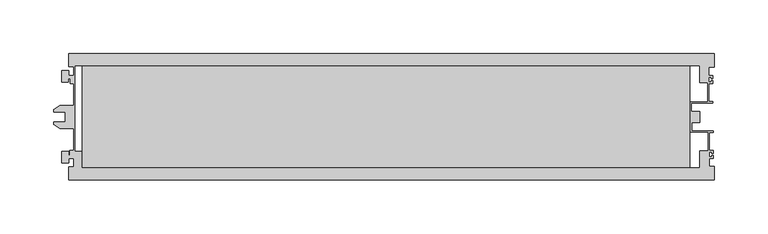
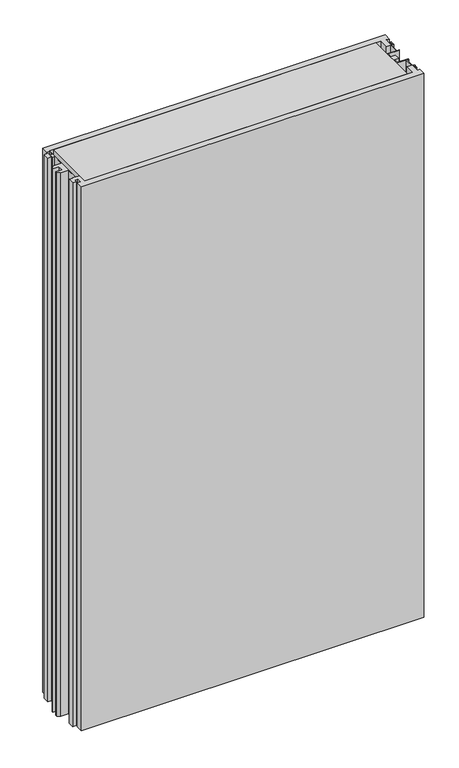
"""IFC4 building model written with IfcOpenShell, lengths in millimetres: plate geometry, Walls_External-Walls_Danpal_Danpatherm-K12 : Walls_External-Walls_Danpal_Danpatherm-K12."""

from ifc_helpers import new_model, si_unit, frame, origin, place, context, project, spatial, polyline, outline, extrude, source, transform, mapped, element, save


def plate_ff002d2a(model_context):
    return source(origin(), model_context, "Body", "SweptSolid", [
        extrude(outline(polyline([(274.6184743, 11.5), (-289.8606362, 11.5), (-289.8606362, 105.9), (274.6184743, 105.9), (274.6184743, 11.5)])), frame((0.0, 0.0, -29.0), z_axis=(0.0, 0.0, 1.0), x_axis=(1.0, 0.0, 0.0)), (0.0, 0.0, 1.0), 1007.2059038),
        extrude(outline(polyline([(-302.5, 0.0), (-302.5, 12.0), (-297.8073464, 12.0), (-297.8073464, 19.8235008), (-302.439876, 19.8235008), (-302.439876, 15.7697721), (-308.8872445, 15.7697721), (-308.8872445, 26.3618773), (-302.5, 26.3618773), (-302.5, 22.8208692), (-301.407343, 22.8208692), (-301.407343, 27.4235008), (-297.7, 27.4235008), (-297.7, 47.6749188), (-310.7714928, 47.6749188), (-316.1600052, 51.6018507), (-316.1600052, 53.8499188), (-305.3266718, 53.8499188), (-305.3266718, 63.1232521), (-316.1600052, 63.1232521), (-316.1600052, 65.3713202), (-310.7714928, 69.2982521), (-297.4, 69.2982521), (-297.4, 89.4749648), (-300.9999965, 89.4749648), (-300.9999965, 94.0775963), (-302.5127555, 94.0775963), (-302.5127555, 91.0381227), (-308.9, 91.0381227), (-308.9, 101.6302279), (-302.4526316, 101.6302279), (-302.4526316, 97.0749648), (-297.4, 97.0749648), (-297.4, 105.4), (-302.5, 105.4), (-302.5, 117.4), (297.5, 117.4), (297.5, 104.9), (292.4, 104.9), (292.4, 97.0749648), (295.9999965, 97.0749648), (295.9999965, 94.2749648), (294.6999965, 94.2749648), (294.6999965, 95.7749648), (292.3, 95.7749648), (292.3, 90.7749648), (294.6999965, 90.7749648), (294.6999965, 92.2749648), (295.9999965, 92.2749648), (295.9999965, 89.4749648), (292.4, 89.4749648), (292.4, 72.6749349), (295.9999965, 72.6749349), (295.9999965, 71.3749594), (276.2999848, 71.3749594), (276.2999848, 63.5500812), (283.9999848, 63.5500812), (283.9999848, 53.3499188), (276.8654904, 53.3499188), (276.8654904, 45.5250406), (296.5655022, 45.5250406), (296.5655022, 44.2251011), (292.9655056, 44.2251011), (292.9653041, 27.4250712), (296.565297, 27.4250712), (296.565297, 24.6250436), (295.2652706, 24.6250436), (295.2652706, 26.1250508), (292.8652849, 26.1250508), (292.8652849, 21.1250724), (295.2652287, 21.1250724), (295.2652287, 22.6250436), (296.5652394, 22.6250436), (296.5652394, 19.8250352), (292.9652129, 19.8250352), (292.9651236, 12.3834733), (297.5, 12.326688), (297.5, 0.0), (-302.5, 0.0)]), holes=[polyline([(283.6999848, 11.5), (283.66868, 27.5010583), (291.5655046, 27.4021751), (291.5655046, 44.143617), (274.6184743, 44.143617), (274.6184743, 72.9749349), (291.0, 72.9749349), (291.0, 89.9), (283.5512195, 89.9), (283.4884259, 105.9), (-296.4452172, 105.9), (-296.4452172, 27.0), (-289.8606362, 27.0), (-289.8606362, 11.5), (283.6999848, 11.5)])]), frame((0.0, 0.0, -29.0), z_axis=(0.0, 0.0, 1.0), x_axis=(1.0, 0.0, 0.0)), (0.0, 0.0, 1.0), 1007.2059038),
    ])


if __name__ == "__main__":
    model = new_model("IFC4")
    model_context = context("Model", 3, world=origin())
    ifc_project = project(units=[si_unit("LENGTHUNIT", "METRE", prefix="MILLI")], contexts=[model_context])
    site = spatial("IfcSite", under=ifc_project)
    building = spatial("IfcBuilding", under=site)
    placement = place(None, origin())
    plate_shape = plate_ff002d2a(model_context)
    element("IfcPlate", 1, ObjectType="Walls_External-Walls_Danpal_Danpatherm-K12 : Walls_External-Walls_Danpal_Danpatherm-K12", at=placement, inside=building, context=model_context, shape_type="MappedRepresentation", body=[
        mapped(plate_shape, transform((0.0, 0.0, 0.0), x_axis=(1.0, 0.0, 0.0), y_axis=(0.0, 1.0, 0.0), z_axis=(0.0, 0.0, 1.0))),
    ])
    save(model, "model.ifc")
